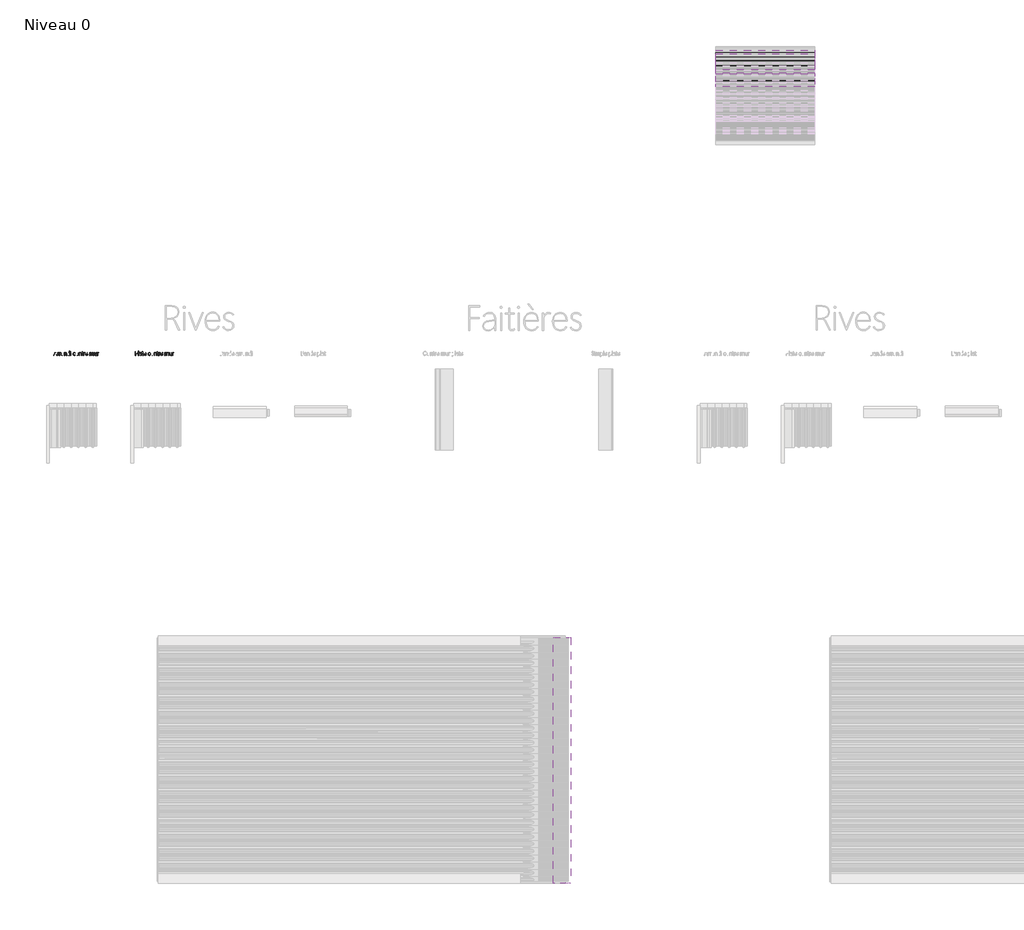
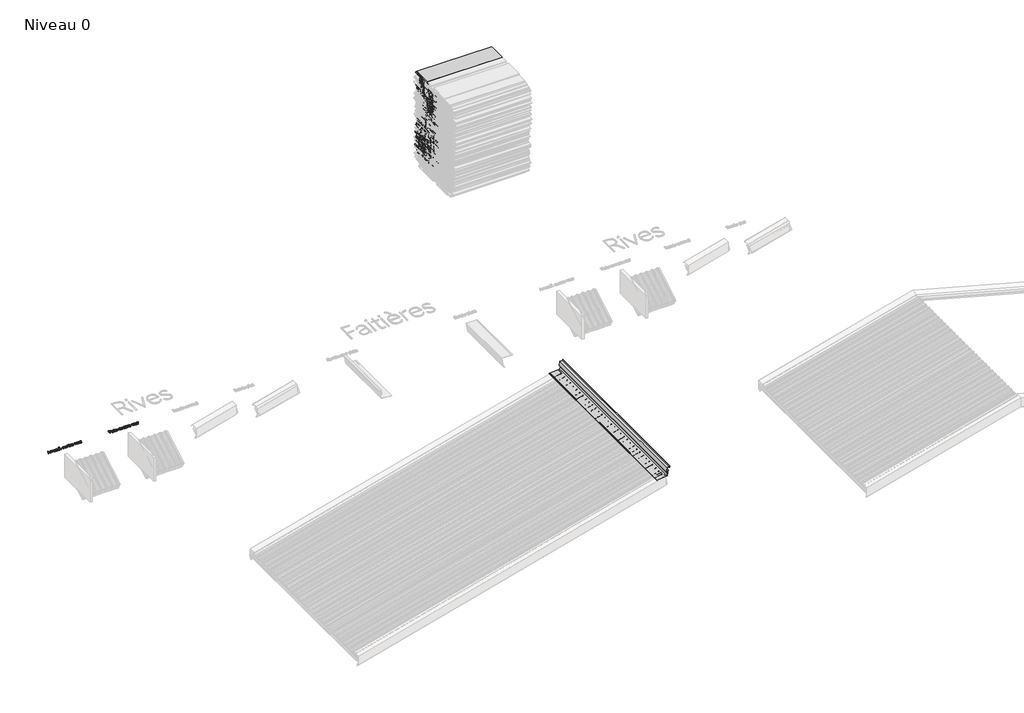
# One storey, part 12 of 26: 76 beams, 3 proxies.
"""IFC4 building model written with IfcOpenShell, lengths in millimetres."""

from ifc_helpers import new_model, si_unit, origin, origin_with_axes, place, context, project, spatial, polyline, outline, extrude, transform, mapped, element, save
from components import hea160_c7043086, hea240_b9c7735d, hea300_d8dc5cb0, generic_models_837f975a

model = new_model("IFC4")

# Units and contexts
model_context = context("Model", 3, world=origin())
ifc_project = project(units=[si_unit("LENGTHUNIT", "METRE", prefix="MILLI")], contexts=[model_context])

# Site, building, storey
site = spatial("IfcSite", under=ifc_project)
building = spatial("IfcBuilding", under=site)
storey = spatial("IfcBuildingStorey", under=building, Name="Niveau 0", Elevation=0.0)

# Beams
placement = place(None, origin())
hea160_shape = hea160_c7043086(model_context)
element("IfcBeam", 1, ObjectType="HE-A : HEA160", at=placement, inside=storey, context=model_context, shape_type="MappedRepresentation", body=[
    mapped(hea160_shape, transform((0.0, -4680.3998678, 571.312117), x_axis=(1.0, 0.0, 0.0), y_axis=(0.0, 1.0, 0.0), z_axis=(0.0, 0.0, 1.0))),
])
element("IfcBeam", 2, ObjectType="HE-A : HEA160", at=placement, inside=storey, context=model_context, shape_type="MappedRepresentation", body=[
    mapped(hea160_shape, transform((0.0, -4960.7493809, 648.8738658), x_axis=(1.0, 0.0, 0.0), y_axis=(0.0, 1.0, 0.0), z_axis=(0.0, 0.0, 1.0))),
])
element("IfcBeam", 3, ObjectType="HE-A : HEA160", at=placement, inside=storey, context=model_context, shape_type="MappedRepresentation", body=[
    mapped(hea160_shape, transform((0.0, -4900.4929694, 510.1498768), x_axis=(1.0, 0.0, 0.0), y_axis=(0.0, 1.0, 0.0), z_axis=(0.0, 0.0, 1.0))),
])
element("IfcBeam", 4, ObjectType="HE-A : HEA160", at=placement, inside=storey, context=model_context, shape_type="MappedRepresentation", body=[
    mapped(hea160_shape, transform((0.0, -4919.7359698, 442.668429), x_axis=(1.0, 0.0, 0.0), y_axis=(0.0, 1.0, 0.0), z_axis=(0.0, 0.0, 1.0))),
])
element("IfcBeam", 5, ObjectType="HE-A : HEA160", at=placement, inside=storey, context=model_context, shape_type="MappedRepresentation", body=[
    mapped(hea160_shape, transform((0.0, -4910.6652864, 376.5132913), x_axis=(1.0, 0.0, 0.0), y_axis=(0.0, 1.0, 0.0), z_axis=(0.0, 0.0, 1.0))),
])
element("IfcBeam", 6, ObjectType="HE-A : HEA160", at=placement, inside=storey, context=model_context, shape_type="MappedRepresentation", body=[
    mapped(hea160_shape, transform((0.0, -4622.894001, 355.0845228), x_axis=(1.0, 0.0, 0.0), y_axis=(0.0, 1.0, 0.0), z_axis=(0.0, 0.0, 1.0))),
])
element("IfcBeam", 7, ObjectType="HE-A : HEA160", at=placement, inside=storey, context=model_context, shape_type="MappedRepresentation", body=[
    mapped(hea160_shape, transform((0.0, -4606.3643129, 249.8680019), x_axis=(1.0, 0.0, 0.0), y_axis=(0.0, 1.0, 0.0), z_axis=(0.0, 0.0, 1.0))),
])
element("IfcBeam", 8, ObjectType="HE-A : HEA160", at=placement, inside=storey, context=model_context, shape_type="MappedRepresentation", body=[
    mapped(hea160_shape, transform((0.0, -4758.8245961, 387.0226093), x_axis=(1.0, 0.0, 0.0), y_axis=(0.0, 1.0, 0.0), z_axis=(0.0, 0.0, 1.0))),
])
element("IfcBeam", 9, ObjectType="HE-A : HEA160", at=placement, inside=storey, context=model_context, shape_type="MappedRepresentation", body=[
    mapped(hea160_shape, transform((0.0, -4701.8754232, 362.3181295), x_axis=(1.0, 0.0, 0.0), y_axis=(0.0, 1.0, 0.0), z_axis=(0.0, 0.0, 1.0))),
])
element("IfcBeam", 10, ObjectType="HE-A : HEA160", at=placement, inside=storey, context=model_context, shape_type="MappedRepresentation", body=[
    mapped(hea160_shape, transform((0.0, -4803.7394901, 270.1053349), x_axis=(1.0, 0.0, 0.0), y_axis=(0.0, 1.0, 0.0), z_axis=(0.0, 0.0, 1.0))),
])
element("IfcBeam", 11, ObjectType="HE-A : HEA160", at=placement, inside=storey, context=model_context, shape_type="MappedRepresentation", body=[
    mapped(hea160_shape, transform((0.0, -4881.1988103, 284.8458743), x_axis=(1.0, 0.0, 0.0), y_axis=(0.0, 1.0, 0.0), z_axis=(0.0, 0.0, 1.0))),
])
element("IfcBeam", 12, ObjectType="HE-A : HEA160", at=placement, inside=storey, context=model_context, shape_type="MappedRepresentation", body=[
    mapped(hea160_shape, transform((0.0, -4884.5070619, 315.3270158), x_axis=(1.0, 0.0, 0.0), y_axis=(0.0, 1.0, 0.0), z_axis=(0.0, 0.0, 1.0))),
])
element("IfcBeam", 13, ObjectType="HE-A : HEA160", at=placement, inside=storey, context=model_context, shape_type="MappedRepresentation", body=[
    mapped(hea160_shape, transform((0.0, -4855.3948052, 356.8089704), x_axis=(1.0, 0.0, 0.0), y_axis=(0.0, 1.0, 0.0), z_axis=(0.0, 0.0, 1.0))),
])
element("IfcBeam", 14, ObjectType="HE-A : HEA160", at=placement, inside=storey, context=model_context, shape_type="MappedRepresentation", body=[
    mapped(hea160_shape, transform((0.0, -4982.3806321, 1121.7075768), x_axis=(1.0, 0.0, 0.0), y_axis=(0.0, 1.0, 0.0), z_axis=(0.0, 0.0, 1.0))),
])
element("IfcBeam", 15, ObjectType="HE-A : HEA160", at=placement, inside=storey, context=model_context, shape_type="MappedRepresentation", body=[
    mapped(hea160_shape, transform((0.0, -4964.794829, 1184.0720063), x_axis=(1.0, 0.0, 0.0), y_axis=(0.0, 1.0, 0.0), z_axis=(0.0, 0.0, 1.0))),
])
element("IfcBeam", 16, ObjectType="HE-A : HEA160", at=placement, inside=storey, context=model_context, shape_type="MappedRepresentation", body=[
    mapped(hea160_shape, transform((0.0, -4900.1888934, 1070.2299158), x_axis=(1.0, 0.0, 0.0), y_axis=(0.0, 1.0, 0.0), z_axis=(0.0, 0.0, 1.0))),
])
element("IfcBeam", 17, ObjectType="HE-A : HEA160", at=placement, inside=storey, context=model_context, shape_type="MappedRepresentation", body=[
    mapped(hea160_shape, transform((0.0, -4883.4438619, 970.245984), x_axis=(1.0, 0.0, 0.0), y_axis=(0.0, 1.0, 0.0), z_axis=(0.0, 0.0, 1.0))),
])
element("IfcBeam", 18, ObjectType="HE-A : HEA160", at=placement, inside=storey, context=model_context, shape_type="MappedRepresentation", body=[
    mapped(hea160_shape, transform((0.0, -4858.788824, 1251.305745), x_axis=(1.0, 0.0, 0.0), y_axis=(0.0, 1.0, 0.0), z_axis=(0.0, 0.0, 1.0))),
])
element("IfcBeam", 19, ObjectType="HE-A : HEA160", at=placement, inside=storey, context=model_context, shape_type="MappedRepresentation", body=[
    mapped(hea160_shape, transform((0.0, -4854.8811903, 1302.1400941), x_axis=(1.0, 0.0, 0.0), y_axis=(0.0, 1.0, 0.0), z_axis=(0.0, 0.0, 1.0))),
])
element("IfcBeam", 20, ObjectType="HE-A : HEA160", at=placement, inside=storey, context=model_context, shape_type="MappedRepresentation", body=[
    mapped(hea160_shape, transform((0.0, -4709.6516122, 183.8157921), x_axis=(1.0, 0.0, 0.0), y_axis=(0.0, 1.0, 0.0), z_axis=(0.0, 0.0, 1.0))),
])
element("IfcBeam", 21, ObjectType="HE-A : HEA160", at=placement, inside=storey, context=model_context, shape_type="MappedRepresentation", body=[
    mapped(hea160_shape, transform((0.0, -4779.5397635, 400.7005471), x_axis=(1.0, 0.0, 0.0), y_axis=(0.0, 1.0, 0.0), z_axis=(0.0, 0.0, 1.0))),
])
element("IfcBeam", 22, ObjectType="HE-A : HEA160", at=placement, inside=storey, context=model_context, shape_type="MappedRepresentation", body=[
    mapped(hea160_shape, transform((0.0, -4811.1540655, 416.0155214), x_axis=(1.0, 0.0, 0.0), y_axis=(0.0, 1.0, 0.0), z_axis=(0.0, 0.0, 1.0))),
])
element("IfcBeam", 23, ObjectType="HE-A : HEA160", at=placement, inside=storey, context=model_context, shape_type="MappedRepresentation", body=[
    mapped(hea160_shape, transform((0.0, -4940.4217638, 922.8147158), x_axis=(1.0, 0.0, 0.0), y_axis=(0.0, 1.0, 0.0), z_axis=(0.0, 0.0, 1.0))),
])
hea240_shape = hea240_b9c7735d(model_context)
element("IfcBeam", 24, ObjectType="HE-A : HEA240", at=placement, inside=storey, context=model_context, shape_type="MappedRepresentation", body=[
    mapped(hea240_shape, transform((0.0, -4779.4701022, 661.627107), x_axis=(1.0, 0.0, 0.0), y_axis=(0.0, 1.0, 0.0), z_axis=(0.0, 0.0, 1.0))),
])
element("IfcBeam", 25, ObjectType="HE-A : HEA240", at=placement, inside=storey, context=model_context, shape_type="MappedRepresentation", body=[
    mapped(hea240_shape, transform((0.0, -4746.3166767, 639.5739655), x_axis=(1.0, 0.0, 0.0), y_axis=(0.0, 1.0, 0.0), z_axis=(0.0, 0.0, 1.0))),
])
element("IfcBeam", 26, ObjectType="HE-A : HEA240", at=placement, inside=storey, context=model_context, shape_type="MappedRepresentation", body=[
    mapped(hea240_shape, transform((0.0, -4721.9753382, 693.5475117), x_axis=(1.0, 0.0, 0.0), y_axis=(0.0, 1.0, 0.0), z_axis=(0.0, 0.0, 1.0))),
])
element("IfcBeam", 27, ObjectType="HE-A : HEA240", at=placement, inside=storey, context=model_context, shape_type="MappedRepresentation", body=[
    mapped(hea240_shape, transform((0.0, -4957.7694906, 491.2149448), x_axis=(1.0, 0.0, 0.0), y_axis=(0.0, 1.0, 0.0), z_axis=(0.0, 0.0, 1.0))),
])
element("IfcBeam", 28, ObjectType="HE-A : HEA240", at=placement, inside=storey, context=model_context, shape_type="MappedRepresentation", body=[
    mapped(hea240_shape, transform((0.0, -4990.7321412, 467.8128447), x_axis=(1.0, 0.0, 0.0), y_axis=(0.0, 1.0, 0.0), z_axis=(0.0, 0.0, 1.0))),
])
element("IfcBeam", 29, ObjectType="HE-A : HEA240", at=placement, inside=storey, context=model_context, shape_type="MappedRepresentation", body=[
    mapped(hea240_shape, transform((0.0, -4628.2834243, 463.6604062), x_axis=(1.0, 0.0, 0.0), y_axis=(0.0, 1.0, 0.0), z_axis=(0.0, 0.0, 1.0))),
])
element("IfcBeam", 30, ObjectType="HE-A : HEA240", at=placement, inside=storey, context=model_context, shape_type="MappedRepresentation", body=[
    mapped(hea240_shape, transform((0.0, -4602.785997, 422.7857627), x_axis=(1.0, 0.0, 0.0), y_axis=(0.0, 1.0, 0.0), z_axis=(0.0, 0.0, 1.0))),
])
element("IfcBeam", 31, ObjectType="HE-A : HEA240", at=placement, inside=storey, context=model_context, shape_type="MappedRepresentation", body=[
    mapped(hea240_shape, transform((0.0, -4576.6672679, 286.5597231), x_axis=(1.0, 0.0, 0.0), y_axis=(0.0, 1.0, 0.0), z_axis=(0.0, 0.0, 1.0))),
])
element("IfcBeam", 32, ObjectType="HE-A : HEA240", at=placement, inside=storey, context=model_context, shape_type="MappedRepresentation", body=[
    mapped(hea240_shape, transform((0.0, -4596.775272, 298.9145634), x_axis=(1.0, 0.0, 0.0), y_axis=(0.0, 1.0, 0.0), z_axis=(0.0, 0.0, 1.0))),
])
element("IfcBeam", 33, ObjectType="HE-A : HEA240", at=placement, inside=storey, context=model_context, shape_type="MappedRepresentation", body=[
    mapped(hea240_shape, transform((0.0, -4745.6981626, 282.7237196), x_axis=(1.0, 0.0, 0.0), y_axis=(0.0, 1.0, 0.0), z_axis=(0.0, 0.0, 1.0))),
])
element("IfcBeam", 34, ObjectType="HE-A : HEA240", at=placement, inside=storey, context=model_context, shape_type="MappedRepresentation", body=[
    mapped(hea240_shape, transform((0.0, -4674.2404307, 364.4840054), x_axis=(1.0, 0.0, 0.0), y_axis=(0.0, 1.0, 0.0), z_axis=(0.0, 0.0, 1.0))),
])
element("IfcBeam", 35, ObjectType="HE-A : HEA240", at=placement, inside=storey, context=model_context, shape_type="MappedRepresentation", body=[
    mapped(hea240_shape, transform((0.0, -4704.9276252, 312.6311921), x_axis=(1.0, 0.0, 0.0), y_axis=(0.0, 1.0, 0.0), z_axis=(0.0, 0.0, 1.0))),
])
element("IfcBeam", 36, ObjectType="HE-A : HEA240", at=placement, inside=storey, context=model_context, shape_type="MappedRepresentation", body=[
    mapped(hea240_shape, transform((0.0, -4707.4988227, 271.7528431), x_axis=(1.0, 0.0, 0.0), y_axis=(0.0, 1.0, 0.0), z_axis=(0.0, 0.0, 1.0))),
])
element("IfcBeam", 37, ObjectType="HE-A : HEA240", at=placement, inside=storey, context=model_context, shape_type="MappedRepresentation", body=[
    mapped(hea240_shape, transform((0.0, -4914.5904048, 1186.5883988), x_axis=(1.0, 0.0, 0.0), y_axis=(0.0, 1.0, 0.0), z_axis=(0.0, 0.0, 1.0))),
])
element("IfcBeam", 38, ObjectType="HE-A : HEA240", at=placement, inside=storey, context=model_context, shape_type="MappedRepresentation", body=[
    mapped(hea240_shape, transform((0.0, -4828.0988372, 1027.6124689), x_axis=(1.0, 0.0, 0.0), y_axis=(0.0, 1.0, 0.0), z_axis=(0.0, 0.0, 1.0))),
])
element("IfcBeam", 39, ObjectType="HE-A : HEA240", at=placement, inside=storey, context=model_context, shape_type="MappedRepresentation", body=[
    mapped(hea240_shape, transform((0.0, -4810.7127133, 1093.0224157), x_axis=(1.0, 0.0, 0.0), y_axis=(0.0, 1.0, 0.0), z_axis=(0.0, 0.0, 1.0))),
])
element("IfcBeam", 40, ObjectType="HE-A : HEA240", at=placement, inside=storey, context=model_context, shape_type="MappedRepresentation", body=[
    mapped(hea240_shape, transform((0.0, -4874.2133614, 1117.1446654), x_axis=(1.0, 0.0, 0.0), y_axis=(0.0, 1.0, 0.0), z_axis=(0.0, 0.0, 1.0))),
])
element("IfcBeam", 41, ObjectType="HE-A : HEA240", at=placement, inside=storey, context=model_context, shape_type="MappedRepresentation", body=[
    mapped(hea240_shape, transform((0.0, -4738.6790506, 214.6576735), x_axis=(1.0, 0.0, 0.0), y_axis=(0.0, 1.0, 0.0), z_axis=(0.0, 0.0, 1.0))),
])
element("IfcBeam", 42, ObjectType="HE-A : HEA240", at=placement, inside=storey, context=model_context, shape_type="MappedRepresentation", body=[
    mapped(hea240_shape, transform((0.0, -4729.594764, 1213.3305867), x_axis=(1.0, 0.0, 0.0), y_axis=(0.0, 1.0, 0.0), z_axis=(0.0, 0.0, 1.0))),
])
element("IfcBeam", 43, ObjectType="HE-A : HEA240", at=placement, inside=storey, context=model_context, shape_type="MappedRepresentation", body=[
    mapped(hea240_shape, transform((0.0, -4711.510719, 1247.667961), x_axis=(1.0, 0.0, 0.0), y_axis=(0.0, 1.0, 0.0), z_axis=(0.0, 0.0, 1.0))),
])
element("IfcBeam", 44, ObjectType="HE-A : HEA240", at=placement, inside=storey, context=model_context, shape_type="MappedRepresentation", body=[
    mapped(hea240_shape, transform((0.0, -4646.5932153, 1321.9772445), x_axis=(1.0, 0.0, 0.0), y_axis=(0.0, 1.0, 0.0), z_axis=(0.0, 0.0, 1.0))),
])
element("IfcBeam", 45, ObjectType="HE-A : HEA240", at=placement, inside=storey, context=model_context, shape_type="MappedRepresentation", body=[
    mapped(hea240_shape, transform((0.0, -4603.7917896, 1324.5739605), x_axis=(1.0, 0.0, 0.0), y_axis=(0.0, 1.0, 0.0), z_axis=(0.0, 0.0, 1.0))),
])
element("IfcBeam", 46, ObjectType="HE-A : HEA240", at=placement, inside=storey, context=model_context, shape_type="MappedRepresentation", body=[
    mapped(hea240_shape, transform((0.0, -4808.9858918, 343.4635534), x_axis=(1.0, 0.0, 0.0), y_axis=(0.0, 1.0, 0.0), z_axis=(0.0, 0.0, 1.0))),
])
element("IfcBeam", 47, ObjectType="HE-A : HEA240", at=placement, inside=storey, context=model_context, shape_type="MappedRepresentation", body=[
    mapped(hea240_shape, transform((0.0, -4956.5498302, 1116.3213082), x_axis=(1.0, 0.0, 0.0), y_axis=(0.0, 1.0, 0.0), z_axis=(0.0, 0.0, 1.0))),
])
element("IfcBeam", 48, ObjectType="HE-A : HEA240", at=placement, inside=storey, context=model_context, shape_type="MappedRepresentation", body=[
    mapped(hea240_shape, transform((0.0, -4918.9439036, 971.2499039), x_axis=(1.0, 0.0, 0.0), y_axis=(0.0, 1.0, 0.0), z_axis=(0.0, 0.0, 1.0))),
])
element("IfcBeam", 49, ObjectType="HE-A : HEA240", at=placement, inside=storey, context=model_context, shape_type="MappedRepresentation", body=[
    mapped(hea240_shape, transform((0.0, -4974.2876958, 956.5275782), x_axis=(1.0, 0.0, 0.0), y_axis=(0.0, 1.0, 0.0), z_axis=(0.0, 0.0, 1.0))),
])
hea300_shape = hea300_d8dc5cb0(model_context)
element("IfcBeam", 50, ObjectType="HE-A : HEA300", at=placement, inside=storey, context=model_context, shape_type="MappedRepresentation", body=[
    mapped(hea300_shape, transform((0.0, -4680.0852014, 528.2169671), x_axis=(1.0, 0.0, 0.0), y_axis=(0.0, 1.0, 0.0), z_axis=(0.0, 0.0, 1.0))),
])
element("IfcBeam", 51, ObjectType="HE-A : HEA300", at=placement, inside=storey, context=model_context, shape_type="MappedRepresentation", body=[
    mapped(hea300_shape, transform((0.0, -4773.0930636, 772.9436697), x_axis=(1.0, 0.0, 0.0), y_axis=(0.0, 1.0, 0.0), z_axis=(0.0, 0.0, 1.0))),
])
element("IfcBeam", 52, ObjectType="HE-A : HEA300", at=placement, inside=storey, context=model_context, shape_type="MappedRepresentation", body=[
    mapped(hea300_shape, transform((0.0, -4802.4557071, 763.9476173), x_axis=(1.0, 0.0, 0.0), y_axis=(0.0, 1.0, 0.0), z_axis=(0.0, 0.0, 1.0))),
])
element("IfcBeam", 53, ObjectType="HE-A : HEA300", at=placement, inside=storey, context=model_context, shape_type="MappedRepresentation", body=[
    mapped(hea300_shape, transform((0.0, -4781.118329, 836.7303121), x_axis=(1.0, 0.0, 0.0), y_axis=(0.0, 1.0, 0.0), z_axis=(0.0, 0.0, 1.0))),
])
element("IfcBeam", 54, ObjectType="HE-A : HEA300", at=placement, inside=storey, context=model_context, shape_type="MappedRepresentation", body=[
    mapped(hea300_shape, transform((0.0, -4960.8620288, 743.3296445), x_axis=(1.0, 0.0, 0.0), y_axis=(0.0, 1.0, 0.0), z_axis=(0.0, 0.0, 1.0))),
])
element("IfcBeam", 55, ObjectType="HE-A : HEA300", at=placement, inside=storey, context=model_context, shape_type="MappedRepresentation", body=[
    mapped(hea300_shape, transform((0.0, -4996.4897097, 544.8801579), x_axis=(1.0, 0.0, 0.0), y_axis=(0.0, 1.0, 0.0), z_axis=(0.0, 0.0, 1.0))),
])
element("IfcBeam", 56, ObjectType="HE-A : HEA300", at=placement, inside=storey, context=model_context, shape_type="MappedRepresentation", body=[
    mapped(hea300_shape, transform((0.0, -4974.6739079, 388.9996042), x_axis=(1.0, 0.0, 0.0), y_axis=(0.0, 1.0, 0.0), z_axis=(0.0, 0.0, 1.0))),
])
element("IfcBeam", 57, ObjectType="HE-A : HEA300", at=placement, inside=storey, context=model_context, shape_type="MappedRepresentation", body=[
    mapped(hea300_shape, transform((0.0, -4693.5236175, 492.5496367), x_axis=(1.0, 0.0, 0.0), y_axis=(0.0, 1.0, 0.0), z_axis=(0.0, 0.0, 1.0))),
])
element("IfcBeam", 58, ObjectType="HE-A : HEA300", at=placement, inside=storey, context=model_context, shape_type="MappedRepresentation", body=[
    mapped(hea300_shape, transform((0.0, -4705.2112753, 449.5325453), x_axis=(1.0, 0.0, 0.0), y_axis=(0.0, 1.0, 0.0), z_axis=(0.0, 0.0, 1.0))),
])
element("IfcBeam", 59, ObjectType="HE-A : HEA300", at=placement, inside=storey, context=model_context, shape_type="MappedRepresentation", body=[
    mapped(hea300_shape, transform((0.0, -4647.8610932, 410.051759), x_axis=(1.0, 0.0, 0.0), y_axis=(0.0, 1.0, 0.0), z_axis=(0.0, 0.0, 1.0))),
])
element("IfcBeam", 60, ObjectType="HE-A : HEA300", at=placement, inside=storey, context=model_context, shape_type="MappedRepresentation", body=[
    mapped(hea300_shape, transform((0.0, -4636.5781053, 327.9204862), x_axis=(1.0, 0.0, 0.0), y_axis=(0.0, 1.0, 0.0), z_axis=(0.0, 0.0, 1.0))),
])
element("IfcBeam", 61, ObjectType="HE-A : HEA300", at=placement, inside=storey, context=model_context, shape_type="MappedRepresentation", body=[
    mapped(hea300_shape, transform((0.0, -4743.1729835, 364.6178351), x_axis=(1.0, 0.0, 0.0), y_axis=(0.0, 1.0, 0.0), z_axis=(0.0, 0.0, 1.0))),
])
element("IfcBeam", 62, ObjectType="HE-A : HEA300", at=placement, inside=storey, context=model_context, shape_type="MappedRepresentation", body=[
    mapped(hea300_shape, transform((0.0, -4675.870754, 314.8950986), x_axis=(1.0, 0.0, 0.0), y_axis=(0.0, 1.0, 0.0), z_axis=(0.0, 0.0, 1.0))),
])
element("IfcBeam", 63, ObjectType="HE-A : HEA300", at=placement, inside=storey, context=model_context, shape_type="MappedRepresentation", body=[
    mapped(hea300_shape, transform((0.0, -4661.0314074, 251.0304398), x_axis=(1.0, 0.0, 0.0), y_axis=(0.0, 1.0, 0.0), z_axis=(0.0, 0.0, 1.0))),
])
element("IfcBeam", 64, ObjectType="HE-A : HEA300", at=placement, inside=storey, context=model_context, shape_type="MappedRepresentation", body=[
    mapped(hea300_shape, transform((0.0, -4846.8401519, 252.9696103), x_axis=(1.0, 0.0, 0.0), y_axis=(0.0, 1.0, 0.0), z_axis=(0.0, 0.0, 1.0))),
])
element("IfcBeam", 65, ObjectType="HE-A : HEA300", at=placement, inside=storey, context=model_context, shape_type="MappedRepresentation", body=[
    mapped(hea300_shape, transform((0.0, -4952.9222741, 1218.1092984), x_axis=(1.0, 0.0, 0.0), y_axis=(0.0, 1.0, 0.0), z_axis=(0.0, 0.0, 1.0))),
])
element("IfcBeam", 66, ObjectType="HE-A : HEA300", at=placement, inside=storey, context=model_context, shape_type="MappedRepresentation", body=[
    mapped(hea300_shape, transform((0.0, -4857.1184602, 1075.3492322), x_axis=(1.0, 0.0, 0.0), y_axis=(0.0, 1.0, 0.0), z_axis=(0.0, 0.0, 1.0))),
])
element("IfcBeam", 67, ObjectType="HE-A : HEA300", at=placement, inside=storey, context=model_context, shape_type="MappedRepresentation", body=[
    mapped(hea300_shape, transform((0.0, -4880.6545117, 1023.5156875), x_axis=(1.0, 0.0, 0.0), y_axis=(0.0, 1.0, 0.0), z_axis=(0.0, 0.0, 1.0))),
])
element("IfcBeam", 68, ObjectType="HE-A : HEA300", at=placement, inside=storey, context=model_context, shape_type="MappedRepresentation", body=[
    mapped(hea300_shape, transform((0.0, -4916.1545533, 1024.5196074), x_axis=(1.0, 0.0, 0.0), y_axis=(0.0, 1.0, 0.0), z_axis=(0.0, 0.0, 1.0))),
])
element("IfcBeam", 69, ObjectType="HE-A : HEA300", at=placement, inside=storey, context=model_context, shape_type="MappedRepresentation", body=[
    mapped(hea300_shape, transform((0.0, -4870.8108474, 1181.1616124), x_axis=(1.0, 0.0, 0.0), y_axis=(0.0, 1.0, 0.0), z_axis=(0.0, 0.0, 1.0))),
])
element("IfcBeam", 70, ObjectType="HE-A : HEA300", at=placement, inside=storey, context=model_context, shape_type="MappedRepresentation", body=[
    mapped(hea300_shape, transform((0.0, -4824.2837633, 1187.9013936), x_axis=(1.0, 0.0, 0.0), y_axis=(0.0, 1.0, 0.0), z_axis=(0.0, 0.0, 1.0))),
])
element("IfcBeam", 71, ObjectType="HE-A : HEA300", at=placement, inside=storey, context=model_context, shape_type="MappedRepresentation", body=[
    mapped(hea300_shape, transform((0.0, -4698.8896952, 230.0648745), x_axis=(1.0, 0.0, 0.0), y_axis=(0.0, 1.0, 0.0), z_axis=(0.0, 0.0, 1.0))),
])
element("IfcBeam", 72, ObjectType="HE-A : HEA300", at=placement, inside=storey, context=model_context, shape_type="MappedRepresentation", body=[
    mapped(hea300_shape, transform((0.0, -4716.5518261, 1284.4521714), x_axis=(1.0, 0.0, 0.0), y_axis=(0.0, 1.0, 0.0), z_axis=(0.0, 0.0, 1.0))),
])
element("IfcBeam", 73, ObjectType="HE-A : HEA300", at=placement, inside=storey, context=model_context, shape_type="MappedRepresentation", body=[
    mapped(hea300_shape, transform((0.0, -4665.7883582, 1321.9772445), x_axis=(1.0, 0.0, 0.0), y_axis=(0.0, 1.0, 0.0), z_axis=(0.0, 0.0, 1.0))),
])
element("IfcBeam", 74, ObjectType="HE-A : HEA300", at=placement, inside=storey, context=model_context, shape_type="MappedRepresentation", body=[
    mapped(hea300_shape, transform((0.0, -4686.0566023, 1312.4507519), x_axis=(1.0, 0.0, 0.0), y_axis=(0.0, 1.0, 0.0), z_axis=(0.0, 0.0, 1.0))),
])
element("IfcBeam", 75, ObjectType="HE-A : HEA300", at=placement, inside=storey, context=model_context, shape_type="MappedRepresentation", body=[
    mapped(hea300_shape, transform((0.0, -4766.8021803, 336.1828876), x_axis=(1.0, 0.0, 0.0), y_axis=(0.0, 1.0, 0.0), z_axis=(0.0, 0.0, 1.0))),
])
element("IfcBeam", 76, ObjectType="HE-A : HEA300", at=placement, inside=storey, context=model_context, shape_type="MappedRepresentation", body=[
    mapped(hea300_shape, transform((0.0, -4913.1912172, 1128.1772357), x_axis=(1.0, 0.0, 0.0), y_axis=(0.0, 1.0, 0.0), z_axis=(0.0, 0.0, 1.0))),
])

# Proxies
generic_models_shape = generic_models_837f975a(model_context)
element("IfcBuildingElementProxy", 77, Name="Faitiere contre mur plate : Faitiere contre mur plate", ObjectType="Faitiere contre mur plate : Faitiere contre mur plate", at=placement, inside=storey, context=model_context, shape_type="MappedRepresentation", body=[
    mapped(generic_models_shape, transform((-2442.1202253, -14732.4337097, 1350.0), x_axis=(0.0, 1.0, 0.0), y_axis=(-1.0, 0.0, 0.0), z_axis=(0.0, 0.0, 1.0))),
])
element("IfcBuildingElementProxy", 78, Name="0.5mm", ObjectType="0.5mm", at=placement, inside=storey, context=model_context, shape_type="SweptSolid", body=[
    extrude(outline(polyline([(-8743.1416896, -8239.2596825), (-8724.4557646, -8189.2569805), (-8722.4622026, -8189.2569805), (-8704.0589469, -8239.2596825), (-8706.5285835, -8239.2596825), (-8712.4646377, -8223.1177808), (-8734.6764895, -8223.1177808), (-8740.672053, -8239.2596825), (-8743.1416896, -8239.2596825)]), holes=[polyline([(-8733.8731138, -8220.9159361), (-8713.2977681, -8220.9159361), (-8722.120024, -8196.8890501), (-8722.8490131, -8194.7987854), (-8723.4738609, -8192.8870487), (-8724.2846754, -8194.8211014), (-8725.0062258, -8196.8295408), (-8733.8731138, -8220.9159361)])]), origin_with_axes(), (0.0, 0.0, 1.0), 10.0),
    extrude(outline(polyline([(-8680.8354367, -8205.5476555), (-8682.5612068, -8204.960001), (-8684.286977, -8204.803789), (-8691.6289387, -8209.0066344), (-8694.5077018, -8221.1242187), (-8694.5077018, -8239.2596825), (-8696.6351598, -8239.2596825), (-8696.6351598, -8203.5540934), (-8694.5077018, -8203.5540934), (-8694.5077018, -8211.4390777), (-8690.4982617, -8205.071581), (-8684.1828357, -8202.8251043), (-8682.1297643, -8202.9961936), (-8680.0023063, -8203.6582347), (-8680.8354367, -8205.5476555)])), origin_with_axes(), (0.0, 0.0, 1.0), 10.0),
    extrude(outline(polyline([(-8657.9838597, -8205.5476555), (-8659.7096298, -8204.960001), (-8661.4354, -8204.803789), (-8668.7773617, -8209.0066344), (-8671.6561248, -8221.1242187), (-8671.6561248, -8239.2596825), (-8673.7835828, -8239.2596825), (-8673.7835828, -8203.5540934), (-8671.6561248, -8203.5540934), (-8671.6561248, -8211.4390777), (-8667.6466847, -8205.071581), (-8661.3312587, -8202.8251043), (-8659.2781873, -8202.9961936), (-8657.1507293, -8203.6582347), (-8657.9838597, -8205.5476555)])), origin_with_axes(), (0.0, 0.0, 1.0), 10.0),
    extrude(outline(polyline([(-8636.6348929, -8240.0928129), (-8648.8566185, -8234.9303798), (-8653.5057837, -8221.4812746), (-8648.7004065, -8207.9131508), (-8636.5009969, -8202.676331), (-8624.3610967, -8207.9280281), (-8619.7640021, -8221.406888), (-8624.420606, -8234.8783092), (-8636.6348929, -8240.0928129)]), holes=[polyline([(-8636.5605063, -8238.0397415), (-8625.9678482, -8233.4054536), (-8621.9956014, -8221.3771333), (-8625.9529708, -8209.3636903), (-8636.5009969, -8204.7442797), (-8647.182919, -8209.4455156), (-8651.2741844, -8221.5110293), (-8647.249867, -8233.4575243), (-8636.5605063, -8238.0397415)])]), origin_with_axes(), (0.0, 0.0, 1.0), 10.0),
    extrude(outline(polyline([(-8585.4271273, -8239.2596825), (-8587.5545853, -8239.2596825), (-8587.5545853, -8217.018076), (-8590.2771364, -8207.9652214), (-8597.8496968, -8204.7442797), (-8606.4190382, -8208.19582), (-8609.7366825, -8217.018076), (-8609.7366825, -8239.2596825), (-8611.8938952, -8239.2596825), (-8611.8938952, -8203.5540934), (-8609.7366825, -8203.5540934), (-8609.7366825, -8209.6537982), (-8604.8346027, -8204.4764878), (-8597.7306782, -8202.676331), (-8588.6555076, -8206.4626112), (-8585.4271273, -8216.8097934), (-8585.4271273, -8239.2596825)])), origin_with_axes(), (0.0, 0.0, 1.0), 10.0),
    extrude(outline(polyline([(-8550.0265235, -8231.5532262), (-8555.2410272, -8237.8314589), (-8563.1557661, -8240.0928129), (-8574.1426734, -8235.1237851), (-8578.2860095, -8221.9275945), (-8573.5624576, -8207.8387641), (-8561.8316838, -8202.676331), (-8554.8095847, -8204.4021012), (-8550.0785941, -8209.3116197), (-8549.9744528, -8186.4005333), (-8547.8172401, -8186.4005333), (-8547.8172401, -8239.2596825), (-8549.9744528, -8239.2596825), (-8550.0265235, -8231.5532262)]), holes=[polyline([(-8576.0544101, -8221.7936985), (-8572.4466579, -8233.7699482), (-8563.0962568, -8238.0397415), (-8553.5524504, -8233.9410374), (-8549.9744528, -8223.6087326), (-8549.9744528, -8216.1403136), (-8553.3590451, -8208.0172921), (-8561.8763158, -8204.7442797), (-8572.0300927, -8209.3413743), (-8576.0544101, -8221.7936985)])]), origin_with_axes(), (0.0, 0.0, 1.0), 10.0),
    extrude(outline(polyline([(-8535.7963585, -8194.8359788), (-8537.4403033, -8194.211131), (-8538.1023444, -8192.5746248), (-8537.4403033, -8190.93068), (-8535.7963585, -8190.2983935), (-8534.1152203, -8190.93068), (-8533.5052499, -8192.5746248), (-8534.1152203, -8194.211131), (-8535.7963585, -8194.8359788)])), origin_with_axes(), (0.0, 0.0, 1.0), 10.0),
    extrude(outline(polyline([(-8534.6805588, -8239.2596825), (-8536.8526488, -8239.2596825), (-8536.8526488, -8203.5540934), (-8534.6805588, -8203.5540934), (-8534.6805588, -8239.2596825)])), origin_with_axes(), (0.0, 0.0, 1.0), 10.0),
    extrude(outline(polyline([(-8478.8608213, -8233.4426469), (-8484.1571503, -8238.3521654), (-8491.7594653, -8240.0928129), (-8503.2968338, -8235.0196438), (-8507.8269804, -8221.4812746), (-8503.1257445, -8207.7495001), (-8491.2387588, -8202.676331), (-8484.209221, -8204.3202759), (-8478.9352079, -8209.2074784), (-8480.6312234, -8210.3827873), (-8485.3622139, -8206.02373), (-8491.2685135, -8204.6996477), (-8501.5561863, -8209.1851624), (-8505.5953811, -8221.5110293), (-8501.6603276, -8233.5393496), (-8491.6850787, -8238.0397415), (-8485.27295, -8236.5743246), (-8480.5717141, -8232.178074), (-8478.8608213, -8233.4426469)])), origin_with_axes(), (0.0, 0.0, 1.0), 10.0),
    extrude(outline(polyline([(-8456.6787241, -8240.0928129), (-8468.9004497, -8234.9303798), (-8473.5496149, -8221.4812746), (-8468.7442377, -8207.9131508), (-8456.5448281, -8202.676331), (-8444.4049278, -8207.9280281), (-8439.8078332, -8221.406888), (-8444.4644371, -8234.8783092), (-8456.6787241, -8240.0928129)]), holes=[polyline([(-8456.6043374, -8238.0397415), (-8446.0116793, -8233.4054536), (-8442.0394326, -8221.3771333), (-8445.996802, -8209.3636903), (-8456.5448281, -8204.7442797), (-8467.2267502, -8209.4455156), (-8471.3180156, -8221.5110293), (-8467.2936982, -8233.4575243), (-8456.6043374, -8238.0397415)])]), origin_with_axes(), (0.0, 0.0, 1.0), 10.0),
    extrude(outline(polyline([(-8405.4709584, -8239.2596825), (-8407.5984165, -8239.2596825), (-8407.5984165, -8217.018076), (-8410.3209676, -8207.9652214), (-8417.893528, -8204.7442797), (-8426.4628693, -8208.19582), (-8429.7805137, -8217.018076), (-8429.7805137, -8239.2596825), (-8431.9377263, -8239.2596825), (-8431.9377263, -8203.5540934), (-8429.7805137, -8203.5540934), (-8429.7805137, -8209.6537982), (-8424.8784338, -8204.4764878), (-8417.7745093, -8202.676331), (-8408.6993388, -8206.4626112), (-8405.4709584, -8216.8097934), (-8405.4709584, -8239.2596825)])), origin_with_axes(), (0.0, 0.0, 1.0), 10.0),
    extrude(outline(polyline([(-8381.1167712, -8237.519035), (-8384.0550437, -8239.3861398), (-8387.2908627, -8239.9589169), (-8392.3268385, -8238.0025482), (-8394.0154153, -8232.1483193), (-8394.0154153, -8205.5476555), (-8400.5614399, -8205.5476555), (-8400.5614399, -8203.5540934), (-8394.0154153, -8203.5540934), (-8394.0154153, -8193.9582164), (-8391.8582026, -8193.5862831), (-8391.8582026, -8203.5540934), (-8382.1284296, -8203.5540934), (-8382.1284296, -8205.5476555), (-8391.8582026, -8205.5476555), (-8391.8582026, -8231.999546), (-8390.6680163, -8236.4850607), (-8387.1420894, -8237.9653549), (-8384.6873301, -8237.496719), (-8382.3664669, -8235.9420382), (-8381.1167712, -8237.519035)])), origin_with_axes(), (0.0, 0.0, 1.0), 10.0),
    extrude(outline(polyline([(-8359.0090607, -8205.5476555), (-8360.7348308, -8204.960001), (-8362.460601, -8204.803789), (-8369.8025627, -8209.0066344), (-8372.6813258, -8221.1242187), (-8372.6813258, -8239.2596825), (-8374.8087838, -8239.2596825), (-8374.8087838, -8203.5540934), (-8372.6813258, -8203.5540934), (-8372.6813258, -8211.4390777), (-8368.6718857, -8205.071581), (-8362.3564597, -8202.8251043), (-8360.3033883, -8202.9961936), (-8358.1759303, -8203.6582347), (-8359.0090607, -8205.5476555)])), origin_with_axes(), (0.0, 0.0, 1.0), 10.0),
    extrude(outline(polyline([(-8325.0738738, -8220.4770549), (-8352.3440174, -8220.7374082), (-8348.7660198, -8233.7476322), (-8338.9097895, -8238.0694962), (-8332.1554822, -8236.3957967), (-8327.3798597, -8231.3746982), (-8325.490439, -8232.3863566), (-8330.9652959, -8238.1661988), (-8338.9097895, -8240.1374449), (-8350.2835074, -8235.3543837), (-8354.5309847, -8220.6332669), (-8350.1272954, -8207.5932882), (-8338.9097895, -8202.676331), (-8328.703942, -8207.176723), (-8325.0738738, -8220.4770549)]), holes=[polyline([(-8327.2757184, -8218.7289688), (-8330.5338534, -8208.2776453), (-8338.9841762, -8204.7442797), (-8348.0816627, -8208.3669093), (-8352.2398761, -8218.7289688), (-8327.2757184, -8218.7289688)])]), origin_with_axes(), (0.0, 0.0, 1.0), 10.0),
    extrude(outline(polyline([(-8252.9039519, -8239.2596825), (-8255.0314099, -8239.2596825), (-8255.0314099, -8217.018076), (-8257.5084851, -8207.7420615), (-8264.3743724, -8204.7442797), (-8272.0585127, -8208.262768), (-8275.1455584, -8217.2263586), (-8275.1455584, -8239.2596825), (-8277.3027711, -8239.2596825), (-8277.3027711, -8216.839548), (-8279.586441, -8207.9131508), (-8286.3779416, -8204.7442797), (-8294.3447512, -8208.1214334), (-8297.4317969, -8216.973444), (-8297.4317969, -8239.2596825), (-8299.5890096, -8239.2596825), (-8299.5890096, -8203.5540934), (-8297.4317969, -8203.5540934), (-8297.4317969, -8209.371129), (-8292.7008063, -8204.3723465), (-8286.1994137, -8202.676331), (-8279.3484038, -8205.0120716), (-8275.8745475, -8211.2307951), (-8271.2774529, -8204.9302463), (-8264.3446177, -8202.676331), (-8255.849663, -8206.2915219), (-8252.9039519, -8216.839548), (-8252.9039519, -8239.2596825)])), origin_with_axes(), (0.0, 0.0, 1.0), 10.0),
    extrude(outline(polyline([(-8216.7222883, -8239.2299278), (-8218.8497463, -8239.2299278), (-8218.8497463, -8233.1153457), (-8223.8038968, -8238.3000948), (-8230.7069773, -8240.0928129), (-8239.8416572, -8236.366042), (-8243.1890562, -8226.0486145), (-8243.1890562, -8203.5243388), (-8241.0318435, -8203.5243388), (-8241.0318435, -8225.8403319), (-8238.227467, -8234.7816065), (-8230.5284494, -8238.0397415), (-8222.1673906, -8234.5733239), (-8218.8497463, -8225.7659453), (-8218.8497463, -8203.5243388), (-8216.7222883, -8203.5243388), (-8216.7222883, -8239.2299278)])), origin_with_axes(), (0.0, 0.0, 1.0), 10.0),
    extrude(outline(polyline([(-8190.4786803, -8205.5476555), (-8192.2044505, -8204.960001), (-8193.9302206, -8204.803789), (-8201.2721824, -8209.0066344), (-8204.1509455, -8221.1242187), (-8204.1509455, -8239.2596825), (-8206.2784035, -8239.2596825), (-8206.2784035, -8203.5540934), (-8204.1509455, -8203.5540934), (-8204.1509455, -8211.4390777), (-8200.1415054, -8205.071581), (-8193.8260793, -8202.8251043), (-8191.7730079, -8202.9961936), (-8189.6455499, -8203.6582347), (-8190.4786803, -8205.5476555)])), origin_with_axes(), (0.0, 0.0, 1.0), 10.0),
])
element("IfcBuildingElementProxy", 79, Name="0.5mm", ObjectType="0.5mm", at=placement, inside=storey, context=model_context, shape_type="SweptSolid", body=[
    extrude(outline(polyline([(-7736.4766463, -8218.967006), (-7736.4766463, -8239.2596825), (-7738.7826323, -8239.2596825), (-7738.7826323, -8189.2569805), (-7728.1899742, -8189.2569805), (-7716.4517618, -8193.0730153), (-7712.0778271, -8203.6879894), (-7716.4368844, -8214.7269673), (-7728.8445766, -8218.967006), (-7736.4766463, -8218.967006)]), holes=[polyline([(-7736.4766463, -8191.4141931), (-7736.4766463, -8216.7651614), (-7728.814822, -8216.7651614), (-7718.2519185, -8213.3880077), (-7714.4135677, -8203.8367627), (-7718.1105839, -8194.7095215), (-7728.4280114, -8191.4141931), (-7736.4766463, -8191.4141931)])]), origin_with_axes(), (0.0, 0.0, 1.0), 10.0),
    extrude(outline(polyline([(-7702.3480541, -8239.2596825), (-7702.3480541, -8186.4005333), (-7700.1908414, -8186.4005333), (-7700.1908414, -8239.2596825), (-7702.3480541, -8239.2596825)])), origin_with_axes(), (0.0, 0.0, 1.0), 10.0),
    extrude(outline(polyline([(-7665.1993641, -8239.2596825), (-7667.3714541, -8239.2596825), (-7667.3714541, -8232.3863566), (-7672.6157125, -8237.9356002), (-7680.1659569, -8240.0928129), (-7688.1997144, -8237.3033137), (-7691.0412842, -8230.1547573), (-7687.9393612, -8222.8871822), (-7678.2021495, -8219.145534), (-7667.3268222, -8217.6131691), (-7667.3268222, -8215.5154658), (-7670.0642507, -8207.4817082), (-7677.4731604, -8204.7442797), (-7683.6993225, -8206.4179792), (-7688.1848371, -8211.364691), (-7690.1635218, -8210.2488914), (-7684.7481742, -8204.6178224), (-7677.4731604, -8202.676331), (-7668.5318858, -8206.0088527), (-7665.1993641, -8215.5452204), (-7665.1993641, -8239.2596825)]), holes=[polyline([(-7667.3714541, -8225.3493801), (-7667.3714541, -8219.6662405), (-7677.9343576, -8221.094464), (-7686.1763977, -8224.0699298), (-7688.8096849, -8230.095248), (-7686.4218736, -8235.9494768), (-7679.9874289, -8238.1141282), (-7671.1131023, -8234.4319893), (-7667.3714541, -8225.3493801)])]), origin_with_axes(), (0.0, 0.0, 1.0), 10.0),
    extrude(outline(polyline([(-7640.1013105, -8237.519035), (-7643.0395829, -8239.3861398), (-7646.2754019, -8239.9589169), (-7651.3113777, -8238.0025482), (-7652.9999546, -8232.1483193), (-7652.9999546, -8205.5476555), (-7659.5459792, -8205.5476555), (-7659.5459792, -8203.5540934), (-7652.9999546, -8203.5540934), (-7652.9999546, -8193.9582164), (-7650.8427419, -8193.5862831), (-7650.8427419, -8203.5540934), (-7641.1129689, -8203.5540934), (-7641.1129689, -8205.5476555), (-7650.8427419, -8205.5476555), (-7650.8427419, -8231.999546), (-7649.6525556, -8236.4850607), (-7646.1266287, -8237.9653549), (-7643.6718694, -8237.496719), (-7641.3510061, -8235.9420382), (-7640.1013105, -8237.519035)])), origin_with_axes(), (0.0, 0.0, 1.0), 10.0),
    extrude(outline(polyline([(-7606.90999, -8220.4770549), (-7634.1801337, -8220.7374082), (-7630.6021361, -8233.7476322), (-7620.7459058, -8238.0694962), (-7613.9915985, -8236.3957967), (-7609.215976, -8231.3746982), (-7607.3265552, -8232.3863566), (-7612.8014122, -8238.1661988), (-7620.7459058, -8240.1374449), (-7632.1196236, -8235.3543837), (-7636.367101, -8220.6332669), (-7631.9634117, -8207.5932882), (-7620.7459058, -8202.676331), (-7610.5400582, -8207.176723), (-7606.90999, -8220.4770549)]), holes=[polyline([(-7609.1118347, -8218.7289688), (-7612.3699697, -8208.2776453), (-7620.8202924, -8204.7442797), (-7629.917779, -8208.3669093), (-7634.0759924, -8218.7289688), (-7609.1118347, -8218.7289688)])]), origin_with_axes(), (0.0, 0.0, 1.0), 10.0),
    extrude(outline(polyline([(-7555.0327446, -8233.4426469), (-7560.3290736, -8238.3521654), (-7567.9313886, -8240.0928129), (-7579.4687571, -8235.0196438), (-7583.9989037, -8221.4812746), (-7579.2976678, -8207.7495001), (-7567.4106821, -8202.676331), (-7560.3811443, -8204.3202759), (-7555.1071312, -8209.2074784), (-7556.8031467, -8210.3827873), (-7561.5341373, -8206.02373), (-7567.4404368, -8204.6996477), (-7577.7281096, -8209.1851624), (-7581.7673044, -8221.5110293), (-7577.8322509, -8233.5393496), (-7567.857002, -8238.0397415), (-7561.4448733, -8236.5743246), (-7556.7436374, -8232.178074), (-7555.0327446, -8233.4426469)])), origin_with_axes(), (0.0, 0.0, 1.0), 10.0),
    extrude(outline(polyline([(-7532.8506474, -8240.0928129), (-7545.072373, -8234.9303798), (-7549.7215382, -8221.4812746), (-7544.916161, -8207.9131508), (-7532.7167514, -8202.676331), (-7520.5768511, -8207.9280281), (-7515.9797566, -8221.406888), (-7520.6363605, -8234.8783092), (-7532.8506474, -8240.0928129)]), holes=[polyline([(-7532.7762607, -8238.0397415), (-7522.1836027, -8233.4054536), (-7518.2113559, -8221.3771333), (-7522.1687253, -8209.3636903), (-7532.7167514, -8204.7442797), (-7543.3986735, -8209.4455156), (-7547.4899389, -8221.5110293), (-7543.4656215, -8233.4575243), (-7532.7762607, -8238.0397415)])]), origin_with_axes(), (0.0, 0.0, 1.0), 10.0),
    extrude(outline(polyline([(-7481.6428818, -8239.2596825), (-7483.7703398, -8239.2596825), (-7483.7703398, -8217.018076), (-7486.4928909, -8207.9652214), (-7494.0654513, -8204.7442797), (-7502.6347926, -8208.19582), (-7505.952437, -8217.018076), (-7505.952437, -8239.2596825), (-7508.1096496, -8239.2596825), (-7508.1096496, -8203.5540934), (-7505.952437, -8203.5540934), (-7505.952437, -8209.6537982), (-7501.0503571, -8204.4764878), (-7493.9464326, -8202.676331), (-7484.8712621, -8206.4626112), (-7481.6428818, -8216.8097934), (-7481.6428818, -8239.2596825)])), origin_with_axes(), (0.0, 0.0, 1.0), 10.0),
    extrude(outline(polyline([(-7457.2886946, -8237.519035), (-7460.226967, -8239.3861398), (-7463.462786, -8239.9589169), (-7468.4987618, -8238.0025482), (-7470.1873386, -8232.1483193), (-7470.1873386, -8205.5476555), (-7476.7333633, -8205.5476555), (-7476.7333633, -8203.5540934), (-7470.1873386, -8203.5540934), (-7470.1873386, -8193.9582164), (-7468.0301259, -8193.5862831), (-7468.0301259, -8203.5540934), (-7458.3003529, -8203.5540934), (-7458.3003529, -8205.5476555), (-7468.0301259, -8205.5476555), (-7468.0301259, -8231.999546), (-7466.8399396, -8236.4850607), (-7463.3140127, -8237.9653549), (-7460.8592535, -8237.496719), (-7458.5383902, -8235.9420382), (-7457.2886946, -8237.519035)])), origin_with_axes(), (0.0, 0.0, 1.0), 10.0),
    extrude(outline(polyline([(-7435.180984, -8205.5476555), (-7436.9067541, -8204.960001), (-7438.6325243, -8204.803789), (-7445.974486, -8209.0066344), (-7448.8532491, -8221.1242187), (-7448.8532491, -8239.2596825), (-7450.9807072, -8239.2596825), (-7450.9807072, -8203.5540934), (-7448.8532491, -8203.5540934), (-7448.8532491, -8211.4390777), (-7444.843809, -8205.071581), (-7438.528383, -8202.8251043), (-7436.4753116, -8202.9961936), (-7434.3478536, -8203.6582347), (-7435.180984, -8205.5476555)])), origin_with_axes(), (0.0, 0.0, 1.0), 10.0),
    extrude(outline(polyline([(-7401.2457971, -8220.4770549), (-7428.5159407, -8220.7374082), (-7424.9379431, -8233.7476322), (-7415.0817128, -8238.0694962), (-7408.3274056, -8236.3957967), (-7403.551783, -8231.3746982), (-7401.6623623, -8232.3863566), (-7407.1372193, -8238.1661988), (-7415.0817128, -8240.1374449), (-7426.4554307, -8235.3543837), (-7430.702908, -8220.6332669), (-7426.2992187, -8207.5932882), (-7415.0817128, -8202.676331), (-7404.8758653, -8207.176723), (-7401.2457971, -8220.4770549)]), holes=[polyline([(-7403.4476417, -8218.7289688), (-7406.7057767, -8208.2776453), (-7415.1560995, -8204.7442797), (-7424.253586, -8208.3669093), (-7428.4117994, -8218.7289688), (-7403.4476417, -8218.7289688)])]), origin_with_axes(), (0.0, 0.0, 1.0), 10.0),
    extrude(outline(polyline([(-7329.0758752, -8239.2596825), (-7331.2033332, -8239.2596825), (-7331.2033332, -8217.018076), (-7333.6804084, -8207.7420615), (-7340.5462957, -8204.7442797), (-7348.230436, -8208.262768), (-7351.3174817, -8217.2263586), (-7351.3174817, -8239.2596825), (-7353.4746944, -8239.2596825), (-7353.4746944, -8216.839548), (-7355.7583643, -8207.9131508), (-7362.5498649, -8204.7442797), (-7370.5166745, -8208.1214334), (-7373.6037202, -8216.973444), (-7373.6037202, -8239.2596825), (-7375.7609329, -8239.2596825), (-7375.7609329, -8203.5540934), (-7373.6037202, -8203.5540934), (-7373.6037202, -8209.371129), (-7368.8727297, -8204.3723465), (-7362.371337, -8202.676331), (-7355.5203271, -8205.0120716), (-7352.0464708, -8211.2307951), (-7347.4493762, -8204.9302463), (-7340.516541, -8202.676331), (-7332.0215863, -8206.2915219), (-7329.0758752, -8216.839548), (-7329.0758752, -8239.2596825)])), origin_with_axes(), (0.0, 0.0, 1.0), 10.0),
    extrude(outline(polyline([(-7292.8942116, -8239.2299278), (-7295.0216696, -8239.2299278), (-7295.0216696, -8233.1153457), (-7299.9758201, -8238.3000948), (-7306.8789007, -8240.0928129), (-7316.0135805, -8236.366042), (-7319.3609795, -8226.0486145), (-7319.3609795, -8203.5243388), (-7317.2037668, -8203.5243388), (-7317.2037668, -8225.8403319), (-7314.3993904, -8234.7816065), (-7306.7003727, -8238.0397415), (-7298.3393139, -8234.5733239), (-7295.0216696, -8225.7659453), (-7295.0216696, -8203.5243388), (-7292.8942116, -8203.5243388), (-7292.8942116, -8239.2299278)])), origin_with_axes(), (0.0, 0.0, 1.0), 10.0),
    extrude(outline(polyline([(-7266.6506037, -8205.5476555), (-7268.3763738, -8204.960001), (-7270.1021439, -8204.803789), (-7277.4441057, -8209.0066344), (-7280.3228688, -8221.1242187), (-7280.3228688, -8239.2596825), (-7282.4503268, -8239.2596825), (-7282.4503268, -8203.5540934), (-7280.3228688, -8203.5540934), (-7280.3228688, -8211.4390777), (-7276.3134287, -8205.071581), (-7269.9980026, -8202.8251043), (-7267.9449313, -8202.9961936), (-7265.8174732, -8203.6582347), (-7266.6506037, -8205.5476555)])), origin_with_axes(), (0.0, 0.0, 1.0), 10.0),
])

save(model, "model.ifc")
